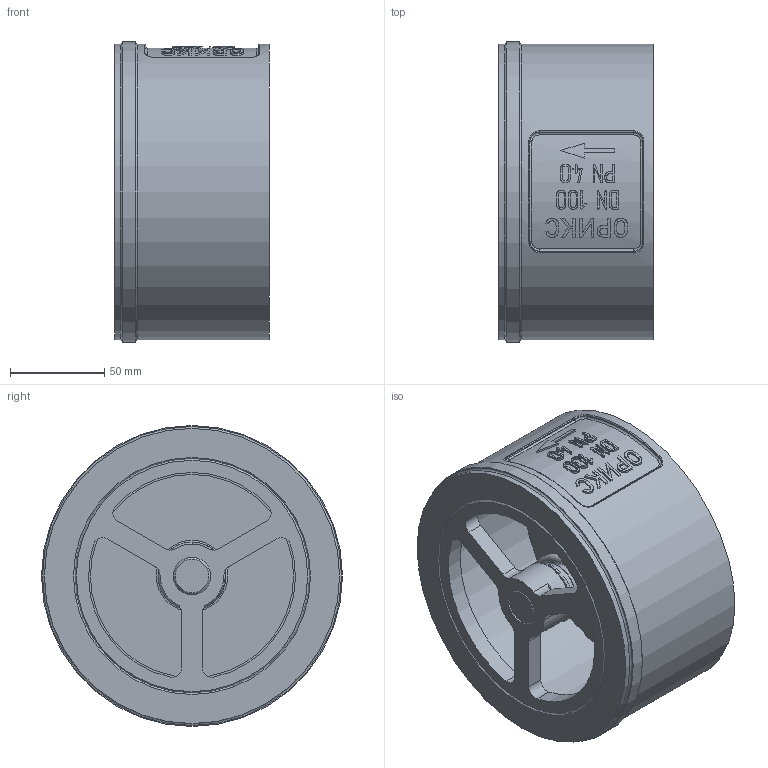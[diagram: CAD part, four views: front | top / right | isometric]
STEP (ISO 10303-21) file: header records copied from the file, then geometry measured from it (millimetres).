
FILE_DESCRIPTION(('STEP AP203'), '1');
FILE_NAME('Ê.800.00 - Êëàïàí îáðàòíûé ìåæôëàíöåâûé DN100', '2026-07-13T05:53:54', ('Pesik_Racer'), (''), 'C3D Converter', 'C3D Toolkit', '');
FILE_SCHEMA(('CONFIG_CONTROL_DESIGN'));
Length unit declared in the file: millimetre
Products named in the file (8): К.800.00; К.800.01; К.800.01Л; К.800.02; К.800.02Л; К.800.03; К.800.03Л; К.800.04
Assembly tree (7 placements, depth 3):
  К.800.00
    К.800.01
      К.800.01Л
    К.800.02
      К.800.02Л
    К.800.03
      К.800.03Л
    К.800.04
Bounding box: 82 x 160 x 160 mm (x, y, z)
Volume: 530595.9 mm3; surface area: 163209.4 mm2
Topology: 13 solids, 13 shells, 429 faces, 1129 edges, 742 vertices
Faces by surface type: extrusion 178, plane 153, cylinder 65, torus 13, bspline 11, cone 9
Full cylindrical faces by diameter (mm): 20 x2, 27.6 x2, 34 x2, 96 x1, 108 x2, 122.835 x1, 125 x1, 145 x1, 157 x2, 160 x1
Entity records: 25961 total; most frequent: CARTESIAN_POINT 15685, ORIENTED_EDGE 2194, DIRECTION 1558, EDGE_CURVE 1097, VERTEX_POINT 742, VECTOR 618, B_SPLINE_CURVE_WITH_KNOTS 563, EDGE_LOOP 497
